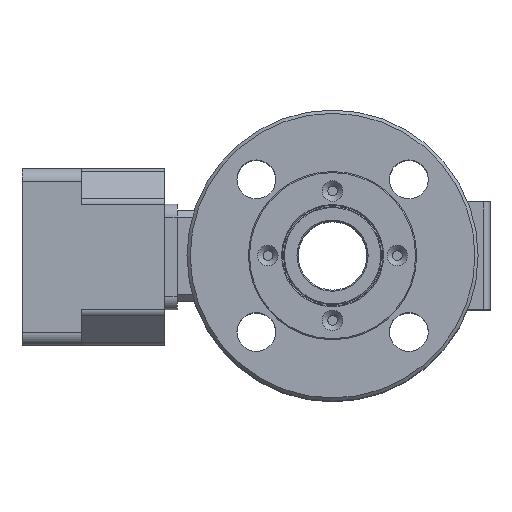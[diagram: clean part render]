
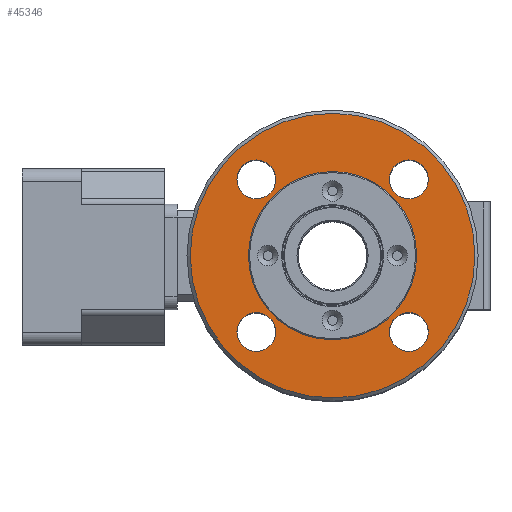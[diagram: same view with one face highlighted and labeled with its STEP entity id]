
A CAD part, top view. The second image highlights one B-rep face of the part: STEP entity #45346.
In plain terms, the highlighted planar face has unit normal (0, 0, 1).
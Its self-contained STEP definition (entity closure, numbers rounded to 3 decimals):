
#1452=FACE_BOUND('',#5828,.T.);
#1453=FACE_BOUND('',#5829,.T.);
#1454=FACE_BOUND('',#5830,.T.);
#1455=FACE_BOUND('',#5831,.T.);
#1456=FACE_BOUND('',#5832,.T.);
#1809=PLANE('',#48069);
#3307=FACE_OUTER_BOUND('',#5827,.T.);
#5827=EDGE_LOOP('',(#29683));
#5828=EDGE_LOOP('',(#29684));
#5829=EDGE_LOOP('',(#29685,#29686));
#5830=EDGE_LOOP('',(#29687,#29688));
#5831=EDGE_LOOP('',(#29689,#29690));
#5832=EDGE_LOOP('',(#29691,#29692));
#17423=CIRCLE('',#48052,39.);
#17436=CIRCLE('',#48070,66.);
#17437=CIRCLE('',#48071,9.);
#17438=CIRCLE('',#48072,9.);
#17439=CIRCLE('',#48073,9.);
#17440=CIRCLE('',#48074,9.);
#17441=CIRCLE('',#48075,9.);
#17442=CIRCLE('',#48076,9.);
#17443=CIRCLE('',#48077,9.);
#17444=CIRCLE('',#48078,9.);
#18661=VERTEX_POINT('',#62464);
#18673=VERTEX_POINT('',#62498);
#18674=VERTEX_POINT('',#62500);
#18675=VERTEX_POINT('',#62501);
#18676=VERTEX_POINT('',#62504);
#18677=VERTEX_POINT('',#62505);
#18678=VERTEX_POINT('',#62508);
#18679=VERTEX_POINT('',#62509);
#18680=VERTEX_POINT('',#62512);
#18681=VERTEX_POINT('',#62513);
#22976=EDGE_CURVE('',#18661,#18661,#17423,.T.);
#22992=EDGE_CURVE('',#18673,#18673,#17436,.T.);
#22993=EDGE_CURVE('',#18674,#18675,#17437,.T.);
#22994=EDGE_CURVE('',#18675,#18674,#17438,.T.);
#22995=EDGE_CURVE('',#18676,#18677,#17439,.T.);
#22996=EDGE_CURVE('',#18677,#18676,#17440,.T.);
#22997=EDGE_CURVE('',#18678,#18679,#17441,.T.);
#22998=EDGE_CURVE('',#18679,#18678,#17442,.T.);
#22999=EDGE_CURVE('',#18680,#18681,#17443,.T.);
#23000=EDGE_CURVE('',#18681,#18680,#17444,.T.);
#29683=ORIENTED_EDGE('',*,*,#22992,.F.);
#29684=ORIENTED_EDGE('',*,*,#22976,.T.);
#29685=ORIENTED_EDGE('',*,*,#22993,.T.);
#29686=ORIENTED_EDGE('',*,*,#22994,.T.);
#29687=ORIENTED_EDGE('',*,*,#22995,.T.);
#29688=ORIENTED_EDGE('',*,*,#22996,.T.);
#29689=ORIENTED_EDGE('',*,*,#22997,.T.);
#29690=ORIENTED_EDGE('',*,*,#22998,.T.);
#29691=ORIENTED_EDGE('',*,*,#22999,.T.);
#29692=ORIENTED_EDGE('',*,*,#23000,.T.);
#45346=ADVANCED_FACE('',(#3307,#1452,#1453,#1454,#1455,#1456),#1809,.T.);
#48052=AXIS2_PLACEMENT_3D('',#62466,#51580,#51581);
#48069=AXIS2_PLACEMENT_3D('',#62497,#51617,#51618);
#48070=AXIS2_PLACEMENT_3D('',#62499,#51619,#51620);
#48071=AXIS2_PLACEMENT_3D('',#62502,#51621,#51622);
#48072=AXIS2_PLACEMENT_3D('',#62503,#51623,#51624);
#48073=AXIS2_PLACEMENT_3D('',#62506,#51625,#51626);
#48074=AXIS2_PLACEMENT_3D('',#62507,#51627,#51628);
#48075=AXIS2_PLACEMENT_3D('',#62510,#51629,#51630);
#48076=AXIS2_PLACEMENT_3D('',#62511,#51631,#51632);
#48077=AXIS2_PLACEMENT_3D('',#62514,#51633,#51634);
#48078=AXIS2_PLACEMENT_3D('',#62515,#51635,#51636);
#51580=DIRECTION('center_axis',(0.,0.,-1.));
#51581=DIRECTION('ref_axis',(-1.,0.,0.));
#51617=DIRECTION('center_axis',(0.,0.,1.));
#51618=DIRECTION('ref_axis',(-1.,0.,0.));
#51619=DIRECTION('center_axis',(0.,0.,-1.));
#51620=DIRECTION('ref_axis',(0.,1.,0.));
#51621=DIRECTION('center_axis',(0.,0.,-1.));
#51622=DIRECTION('ref_axis',(-1.,0.,0.));
#51623=DIRECTION('center_axis',(0.,0.,-1.));
#51624=DIRECTION('ref_axis',(-1.,0.,0.));
#51625=DIRECTION('center_axis',(0.,0.,-1.));
#51626=DIRECTION('ref_axis',(-1.,0.,0.));
#51627=DIRECTION('center_axis',(0.,0.,-1.));
#51628=DIRECTION('ref_axis',(-1.,0.,0.));
#51629=DIRECTION('center_axis',(0.,0.,-1.));
#51630=DIRECTION('ref_axis',(-1.,0.,0.));
#51631=DIRECTION('center_axis',(0.,0.,-1.));
#51632=DIRECTION('ref_axis',(-1.,0.,0.));
#51633=DIRECTION('center_axis',(0.,0.,-1.));
#51634=DIRECTION('ref_axis',(-1.,0.,0.));
#51635=DIRECTION('center_axis',(0.,0.,-1.));
#51636=DIRECTION('ref_axis',(-1.,0.,0.));
#62464=CARTESIAN_POINT('',(13.244,6.602,93.));
#62466=CARTESIAN_POINT('Origin',(52.244,6.602,93.));
#62497=CARTESIAN_POINT('Origin',(52.244,-60.898,93.));
#62498=CARTESIAN_POINT('',(52.244,-59.398,93.));
#62499=CARTESIAN_POINT('Origin',(52.244,6.602,93.));
#62500=CARTESIAN_POINT('',(78.599,41.957,93.));
#62501=CARTESIAN_POINT('',(96.599,41.957,93.));
#62502=CARTESIAN_POINT('Origin',(87.599,41.957,93.));
#62503=CARTESIAN_POINT('Origin',(87.599,41.957,93.));
#62504=CARTESIAN_POINT('',(7.888,-28.754,93.));
#62505=CARTESIAN_POINT('',(25.888,-28.754,93.));
#62506=CARTESIAN_POINT('Origin',(16.888,-28.754,93.));
#62507=CARTESIAN_POINT('Origin',(16.888,-28.754,93.));
#62508=CARTESIAN_POINT('',(78.599,-28.754,93.));
#62509=CARTESIAN_POINT('',(96.599,-28.754,93.));
#62510=CARTESIAN_POINT('Origin',(87.599,-28.754,93.));
#62511=CARTESIAN_POINT('Origin',(87.599,-28.754,93.));
#62512=CARTESIAN_POINT('',(7.888,41.957,93.));
#62513=CARTESIAN_POINT('',(25.888,41.957,93.));
#62514=CARTESIAN_POINT('Origin',(16.888,41.957,93.));
#62515=CARTESIAN_POINT('Origin',(16.888,41.957,93.));
